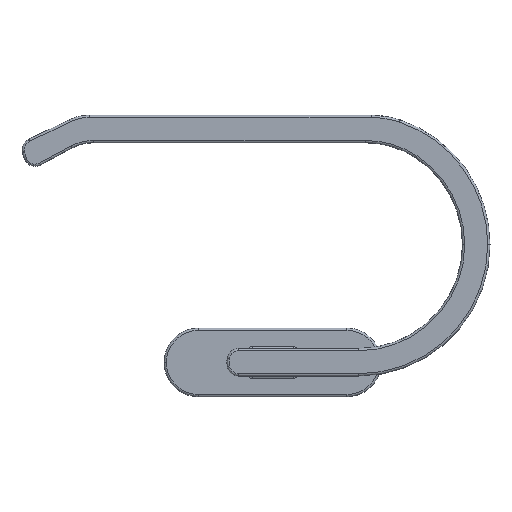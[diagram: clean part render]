
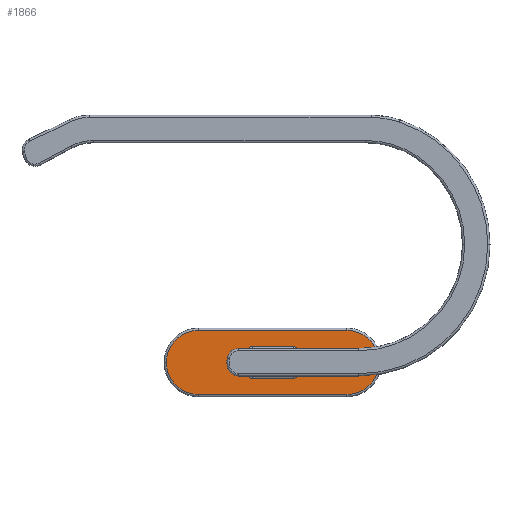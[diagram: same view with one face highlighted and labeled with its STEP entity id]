
A CAD part, top view. The second image highlights one B-rep face of the part: STEP entity #1866.
In plain terms, the highlighted planar face has unit normal (0, 0, 1).
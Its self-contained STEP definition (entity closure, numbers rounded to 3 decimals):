
#22 = CARTESIAN_POINT ( 'NONE',  ( 50.918, -70.025, -41.73 ) ) ;
#30 = CARTESIAN_POINT ( 'NONE',  ( 7.418, -61.05, -41.73 ) ) ;
#91 = DIRECTION ( 'NONE',  ( 0., 0., -1. ) ) ;
#133 = DIRECTION ( 'NONE',  ( -1., 0., 0. ) ) ;
#156 = ORIENTED_EDGE ( 'NONE', *, *, #3899, .T. ) ;
#172 = EDGE_CURVE ( 'NONE', #208, #3780, #3959, .T. ) ;
#208 = VERTEX_POINT ( 'NONE', #1800 ) ;
#237 = VECTOR ( 'NONE', #1449, 1000. ) ;
#290 = ORIENTED_EDGE ( 'NONE', *, *, #521, .T. ) ;
#323 = CARTESIAN_POINT ( 'NONE',  ( 7.418, -51.001, -41.73 ) ) ;
#365 = CIRCLE ( 'NONE', #1599, 14. ) ;
#367 = EDGE_CURVE ( 'NONE', #570, #3728, #1197, .T. ) ;
#379 = VECTOR ( 'NONE', #854, 1000. ) ;
#456 = CARTESIAN_POINT ( 'NONE',  ( 27.418, -61.05, -41.73 ) ) ;
#511 = FACE_OUTER_BOUND ( 'NONE', #1246, .T. ) ;
#521 = EDGE_CURVE ( 'NONE', #527, #570, #1095, .T. ) ;
#527 = VERTEX_POINT ( 'NONE', #2196 ) ;
#529 = CARTESIAN_POINT ( 'NONE',  ( -14.082, -49.001, -41.73 ) ) ;
#570 = VERTEX_POINT ( 'NONE', #3232 ) ;
#592 = VECTOR ( 'NONE', #1072, 1000. ) ;
#608 = ORIENTED_EDGE ( 'NONE', *, *, #1345, .T. ) ;
#639 = EDGE_CURVE ( 'NONE', #1021, #1014, #2420, .T. ) ;
#643 = DIRECTION ( 'NONE',  ( -1., 0., 0. ) ) ;
#723 = ORIENTED_EDGE ( 'NONE', *, *, #1556, .T. ) ;
#753 = CARTESIAN_POINT ( 'NONE',  ( -14.082, -63.05, -41.73 ) ) ;
#781 = ORIENTED_EDGE ( 'NONE', *, *, #3061, .T. ) ;
#814 = CIRCLE ( 'NONE', #1941, 14. ) ;
#831 = CARTESIAN_POINT ( 'NONE',  ( 29.418, -51.001, -41.73 ) ) ;
#854 = DIRECTION ( 'NONE',  ( 1., 0., 0. ) ) ;
#869 = DIRECTION ( 'NONE',  ( -1., 0., 0. ) ) ;
#1014 = VERTEX_POINT ( 'NONE', #3269 ) ;
#1021 = VERTEX_POINT ( 'NONE', #3596 ) ;
#1032 = CARTESIAN_POINT ( 'NONE',  ( 7.418, -51.001, -41.73 ) ) ;
#1034 = LINE ( 'NONE', #1032, #592 ) ;
#1065 = DIRECTION ( 'NONE',  ( -1., 0., 0. ) ) ;
#1072 = DIRECTION ( 'NONE',  ( 0., 1., 0. ) ) ;
#1081 = CARTESIAN_POINT ( 'NONE',  ( 29.418, -61.05, -41.73 ) ) ;
#1095 = CIRCLE ( 'NONE', #2253, 14. ) ;
#1197 = LINE ( 'NONE', #1710, #3675 ) ;
#1223 = ORIENTED_EDGE ( 'NONE', *, *, #367, .T. ) ;
#1246 = EDGE_LOOP ( 'NONE', ( #781, #3032, #1333, #290, #1223 ) ) ;
#1258 = DIRECTION ( 'NONE',  ( -1., 0., 0. ) ) ;
#1261 = CARTESIAN_POINT ( 'NONE',  ( 50.918, -56.025, -41.73 ) ) ;
#1288 = DIRECTION ( 'NONE',  ( -1., 0., 0. ) ) ;
#1333 = ORIENTED_EDGE ( 'NONE', *, *, #2401, .T. ) ;
#1345 = EDGE_CURVE ( 'NONE', #2165, #208, #3050, .T. ) ;
#1352 = CARTESIAN_POINT ( 'NONE',  ( 9.418, -61.05, -41.73 ) ) ;
#1361 = DIRECTION ( 'NONE',  ( 0., 0., -1. ) ) ;
#1378 = CIRCLE ( 'NONE', #2764, 2. ) ;
#1449 = DIRECTION ( 'NONE',  ( -1., 0., 0. ) ) ;
#1487 = DIRECTION ( 'NONE',  ( 0., 0., -1. ) ) ;
#1556 = EDGE_CURVE ( 'NONE', #3096, #2146, #3473, .T. ) ;
#1559 = EDGE_LOOP ( 'NONE', ( #2527, #2363, #2168, #2577, #723, #156, #2854, #608 ) ) ;
#1599 = AXIS2_PLACEMENT_3D ( 'NONE', #2828, #2520, #643 ) ;
#1686 = AXIS2_PLACEMENT_3D ( 'NONE', #3448, #1967, #3462 ) ;
#1710 = CARTESIAN_POINT ( 'NONE',  ( -14.082, -70.025, -41.73 ) ) ;
#1781 = CARTESIAN_POINT ( 'NONE',  ( 27.418, -51.001, -41.73 ) ) ;
#1800 = CARTESIAN_POINT ( 'NONE',  ( 9.418, -49.001, -41.73 ) ) ;
#1813 = AXIS2_PLACEMENT_3D ( 'NONE', #1352, #91, #3438 ) ;
#1866 = ADVANCED_FACE ( 'NONE', ( #511, #3666 ), #3481, .F. ) ;
#1941 = AXIS2_PLACEMENT_3D ( 'NONE', #1261, #3399, #1288 ) ;
#1959 = VERTEX_POINT ( 'NONE', #1081 ) ;
#1967 = DIRECTION ( 'NONE',  ( 0., 0., -1. ) ) ;
#1979 = VERTEX_POINT ( 'NONE', #831 ) ;
#2071 = VECTOR ( 'NONE', #1065, 1000. ) ;
#2096 = AXIS2_PLACEMENT_3D ( 'NONE', #1781, #1487, #869 ) ;
#2142 = CARTESIAN_POINT ( 'NONE',  ( 29.418, -61.05, -41.73 ) ) ;
#2146 = VERTEX_POINT ( 'NONE', #2398 ) ;
#2165 = VERTEX_POINT ( 'NONE', #323 ) ;
#2167 = DIRECTION ( 'NONE',  ( 0., 0., -1. ) ) ;
#2168 = ORIENTED_EDGE ( 'NONE', *, *, #2860, .T. ) ;
#2196 = CARTESIAN_POINT ( 'NONE',  ( -28.082, -56.025, -41.73 ) ) ;
#2251 = VECTOR ( 'NONE', #3016, 1000. ) ;
#2253 = AXIS2_PLACEMENT_3D ( 'NONE', #2882, #2567, #3150 ) ;
#2363 = ORIENTED_EDGE ( 'NONE', *, *, #3645, .T. ) ;
#2398 = CARTESIAN_POINT ( 'NONE',  ( 9.418, -63.05, -41.73 ) ) ;
#2401 = EDGE_CURVE ( 'NONE', #1014, #527, #365, .T. ) ;
#2420 = LINE ( 'NONE', #2899, #237 ) ;
#2471 = VERTEX_POINT ( 'NONE', #30 ) ;
#2494 = CARTESIAN_POINT ( 'NONE',  ( 27.418, -49.001, -41.73 ) ) ;
#2520 = DIRECTION ( 'NONE',  ( 0., 0., 1. ) ) ;
#2527 = ORIENTED_EDGE ( 'NONE', *, *, #172, .T. ) ;
#2567 = DIRECTION ( 'NONE',  ( 0., 0., 1. ) ) ;
#2577 = ORIENTED_EDGE ( 'NONE', *, *, #3421, .T. ) ;
#2623 = DIRECTION ( 'NONE',  ( 1., 0., 0. ) ) ;
#2764 = AXIS2_PLACEMENT_3D ( 'NONE', #456, #1361, #133 ) ;
#2828 = CARTESIAN_POINT ( 'NONE',  ( -14.082, -56.025, -41.73 ) ) ;
#2854 = ORIENTED_EDGE ( 'NONE', *, *, #3424, .T. ) ;
#2858 = CIRCLE ( 'NONE', #1813, 2. ) ;
#2860 = EDGE_CURVE ( 'NONE', #1979, #1959, #3043, .T. ) ;
#2882 = CARTESIAN_POINT ( 'NONE',  ( -14.082, -56.025, -41.73 ) ) ;
#2899 = CARTESIAN_POINT ( 'NONE',  ( -14.082, -42.025, -41.73 ) ) ;
#3016 = DIRECTION ( 'NONE',  ( 0., -1., 0. ) ) ;
#3032 = ORIENTED_EDGE ( 'NONE', *, *, #639, .T. ) ;
#3043 = LINE ( 'NONE', #2142, #2251 ) ;
#3050 = CIRCLE ( 'NONE', #3758, 2. ) ;
#3061 = EDGE_CURVE ( 'NONE', #3728, #1021, #814, .T. ) ;
#3096 = VERTEX_POINT ( 'NONE', #3659 ) ;
#3150 = DIRECTION ( 'NONE',  ( -1., 0., 0. ) ) ;
#3232 = CARTESIAN_POINT ( 'NONE',  ( -14.082, -70.025, -41.73 ) ) ;
#3269 = CARTESIAN_POINT ( 'NONE',  ( -14.082, -42.025, -41.73 ) ) ;
#3399 = DIRECTION ( 'NONE',  ( 0., 0., 1. ) ) ;
#3408 = CARTESIAN_POINT ( 'NONE',  ( 9.418, -51.001, -41.73 ) ) ;
#3421 = EDGE_CURVE ( 'NONE', #1959, #3096, #1378, .T. ) ;
#3424 = EDGE_CURVE ( 'NONE', #2471, #2165, #1034, .T. ) ;
#3438 = DIRECTION ( 'NONE',  ( -1., 0., 0. ) ) ;
#3448 = CARTESIAN_POINT ( 'NONE',  ( -14.082, -56.025, -41.73 ) ) ;
#3462 = DIRECTION ( 'NONE',  ( -1., 0., 0. ) ) ;
#3473 = LINE ( 'NONE', #753, #2071 ) ;
#3481 = PLANE ( 'NONE',  #1686 ) ;
#3516 = CIRCLE ( 'NONE', #2096, 2. ) ;
#3596 = CARTESIAN_POINT ( 'NONE',  ( 50.918, -42.025, -41.73 ) ) ;
#3645 = EDGE_CURVE ( 'NONE', #3780, #1979, #3516, .T. ) ;
#3659 = CARTESIAN_POINT ( 'NONE',  ( 27.418, -63.05, -41.73 ) ) ;
#3666 = FACE_BOUND ( 'NONE', #1559, .T. ) ;
#3675 = VECTOR ( 'NONE', #2623, 1000. ) ;
#3728 = VERTEX_POINT ( 'NONE', #22 ) ;
#3758 = AXIS2_PLACEMENT_3D ( 'NONE', #3408, #2167, #1258 ) ;
#3780 = VERTEX_POINT ( 'NONE', #2494 ) ;
#3899 = EDGE_CURVE ( 'NONE', #2146, #2471, #2858, .T. ) ;
#3959 = LINE ( 'NONE', #529, #379 ) ;
